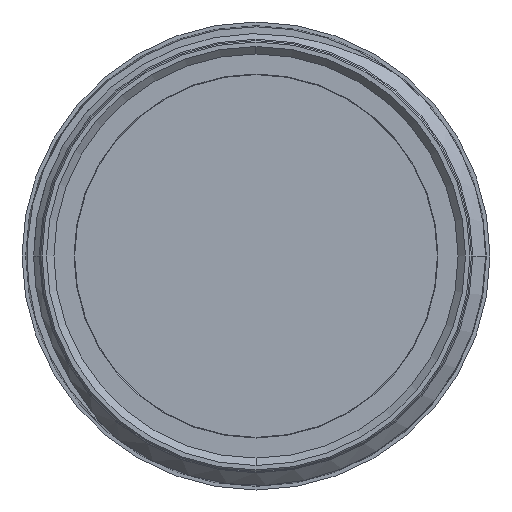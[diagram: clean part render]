
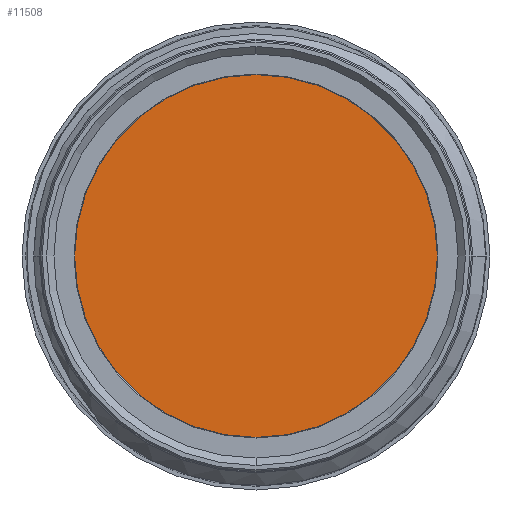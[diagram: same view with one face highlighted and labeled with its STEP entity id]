
A CAD part, left-side view. The second image highlights one B-rep face of the part: STEP entity #11508.
In plain terms, the highlighted planar face has unit normal (-1, 0, 0).
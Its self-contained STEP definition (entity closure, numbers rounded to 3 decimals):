
#358 = CARTESIAN_POINT ( 'NONE',  ( 2170., 0., 2890. ) ) ;
#732 = AXIS2_PLACEMENT_3D ( 'NONE', #13328, #14563, #7093 ) ;
#1297 = CARTESIAN_POINT ( 'NONE',  ( 2170., 0., 2890. ) ) ;
#1347 = CIRCLE ( 'NONE', #13256, 122.1 ) ;
#1701 = DIRECTION ( 'NONE',  ( 0., 0., 1. ) ) ;
#2400 = VERTEX_POINT ( 'NONE', #12159 ) ;
#2589 = DIRECTION ( 'NONE',  ( 0., 0., 1. ) ) ;
#3285 = EDGE_LOOP ( 'NONE', ( #3792, #15896 ) ) ;
#3792 = ORIENTED_EDGE ( 'NONE', *, *, #16401, .T. ) ;
#4494 = PLANE ( 'NONE',  #732 ) ;
#7093 = DIRECTION ( 'NONE',  ( 0., 0., -1. ) ) ;
#7495 = FACE_OUTER_BOUND ( 'NONE', #3285, .T. ) ;
#9146 = AXIS2_PLACEMENT_3D ( 'NONE', #358, #9433, #1701 ) ;
#9433 = DIRECTION ( 'NONE',  ( -1., 0., 0. ) ) ;
#10278 = DIRECTION ( 'NONE',  ( -1., 0., 0. ) ) ;
#10327 = CARTESIAN_POINT ( 'NONE',  ( 2170., 0., 2767.9 ) ) ;
#10523 = VERTEX_POINT ( 'NONE', #10327 ) ;
#11508 = ADVANCED_FACE ( 'NONE', ( #7495 ), #4494, .F. ) ;
#12159 = CARTESIAN_POINT ( 'NONE',  ( 2170., 0., 3012.1 ) ) ;
#13256 = AXIS2_PLACEMENT_3D ( 'NONE', #1297, #10278, #2589 ) ;
#13328 = CARTESIAN_POINT ( 'NONE',  ( 2170., 122.1, 2890. ) ) ;
#13445 = CIRCLE ( 'NONE', #9146, 122.1 ) ;
#14277 = EDGE_CURVE ( 'NONE', #10523, #2400, #1347, .T. ) ;
#14563 = DIRECTION ( 'NONE',  ( 1., 0., 0. ) ) ;
#15896 = ORIENTED_EDGE ( 'NONE', *, *, #14277, .T. ) ;
#16401 = EDGE_CURVE ( 'NONE', #2400, #10523, #13445, .T. ) ;
